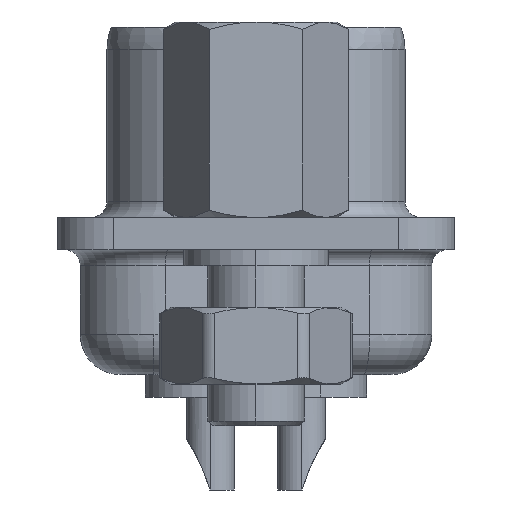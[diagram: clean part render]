
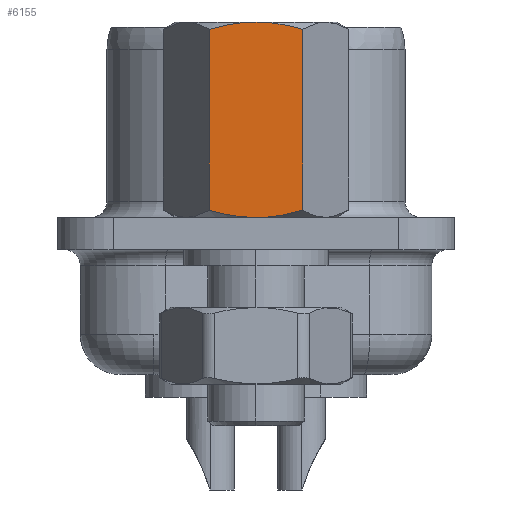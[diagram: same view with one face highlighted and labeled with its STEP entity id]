
A CAD part, left-side view. The second image highlights one B-rep face of the part: STEP entity #6155.
In plain terms, the highlighted planar face has unit normal (-1, 0, 0).
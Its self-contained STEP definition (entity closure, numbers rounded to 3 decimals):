
#144 = CARTESIAN_POINT ( 'NONE',  ( -14.995, 1.457, 6.373 ) ) ;
#187 = EDGE_CURVE ( 'NONE', #10081, #5953, #10543, .T. ) ;
#372 = CARTESIAN_POINT ( 'NONE',  ( -14.995, -1.457, 6.373 ) ) ;
#377 = CARTESIAN_POINT ( 'NONE',  ( -14.995, -1.22, 0.658 ) ) ;
#756 = VERTEX_POINT ( 'NONE', #10656 ) ;
#858 = CARTESIAN_POINT ( 'NONE',  ( -14.995, -1.457, 0.727 ) ) ;
#887 = CARTESIAN_POINT ( 'NONE',  ( -14.995, 1.457, 0.727 ) ) ;
#1219 = CARTESIAN_POINT ( 'NONE',  ( -14.995, 0.496, 6.578 ) ) ;
#1247 = CARTESIAN_POINT ( 'NONE',  ( -14.995, -0.977, 0.6 ) ) ;
#1264 = CARTESIAN_POINT ( 'NONE',  ( -14.995, 0.983, 6.498 ) ) ;
#1306 = CARTESIAN_POINT ( 'NONE',  ( -14.995, 1.221, 6.441 ) ) ;
#1315 = PLANE ( 'NONE',  #11116 ) ;
#1443 = DIRECTION ( 'NONE',  ( 1., 0., 0. ) ) ;
#2143 = VERTEX_POINT ( 'NONE', #7426 ) ;
#2246 = CARTESIAN_POINT ( 'NONE',  ( -14.995, 0., 6.6 ) ) ;
#2318 = VECTOR ( 'NONE', #5095, 1000. ) ;
#2637 = DIRECTION ( 'NONE',  ( 0., 0., -1. ) ) ;
#2748 = ORIENTED_EDGE ( 'NONE', *, *, #8160, .F. ) ;
#2966 = EDGE_LOOP ( 'NONE', ( #11625, #3658, #2748, #7686, #8209, #11139 ) ) ;
#3348 = CARTESIAN_POINT ( 'NONE',  ( -14.995, 1.457, 0.727 ) ) ;
#3594 = CARTESIAN_POINT ( 'NONE',  ( -14.995, 1.457, 6.6 ) ) ;
#3658 = ORIENTED_EDGE ( 'NONE', *, *, #5660, .F. ) ;
#4179 = FACE_OUTER_BOUND ( 'NONE', #2966, .T. ) ;
#4245 = CARTESIAN_POINT ( 'NONE',  ( -14.995, -1.457, 6.6 ) ) ;
#4568 = VECTOR ( 'NONE', #2637, 1000. ) ;
#4817 = B_SPLINE_CURVE_WITH_KNOTS ( 'NONE', 3,
 ( #12375, #12510, #6438, #11476, #5415, #372 ),
 .UNSPECIFIED., .F., .F.,
 ( 4, 2, 4 ),
 ( 0.002, 0.003, 0.004 ),
 .UNSPECIFIED. ) ;
#4827 = VERTEX_POINT ( 'NONE', #858 ) ;
#4833 = EDGE_CURVE ( 'NONE', #4827, #10529, #11874, .T. ) ;
#5095 = DIRECTION ( 'NONE',  ( 0., 0., -1. ) ) ;
#5415 = CARTESIAN_POINT ( 'NONE',  ( -14.995, -1.22, 6.442 ) ) ;
#5660 = EDGE_CURVE ( 'NONE', #756, #4827, #7370, .T. ) ;
#5953 = VERTEX_POINT ( 'NONE', #887 ) ;
#6155 = ADVANCED_FACE ( 'NONE', ( #4179 ), #1315, .F. ) ;
#6390 = CARTESIAN_POINT ( 'NONE',  ( -14.995, 0.983, 0.602 ) ) ;
#6438 = CARTESIAN_POINT ( 'NONE',  ( -14.995, -0.491, 6.579 ) ) ;
#6477 = DIRECTION ( 'NONE',  ( 0., 0., -1. ) ) ;
#7335 = CARTESIAN_POINT ( 'NONE',  ( -14.995, -0.491, 0.521 ) ) ;
#7370 = LINE ( 'NONE', #4245, #2318 ) ;
#7426 = CARTESIAN_POINT ( 'NONE',  ( -14.995, 0., 6.6 ) ) ;
#7686 = ORIENTED_EDGE ( 'NONE', *, *, #8664, .F. ) ;
#8160 = EDGE_CURVE ( 'NONE', #2143, #756, #4817, .T. ) ;
#8209 = ORIENTED_EDGE ( 'NONE', *, *, #187, .T. ) ;
#8664 = EDGE_CURVE ( 'NONE', #10081, #2143, #9033, .T. ) ;
#8907 = CARTESIAN_POINT ( 'NONE',  ( -14.995, 0., 0.5 ) ) ;
#9033 = B_SPLINE_CURVE_WITH_KNOTS ( 'NONE', 3,
 ( #10359, #1306, #1264, #1219, #9313, #2246 ),
 .UNSPECIFIED., .F., .F.,
 ( 4, 2, 4 ),
 ( 0.001, 0.002, 0.002 ),
 .UNSPECIFIED. ) ;
#9196 = CARTESIAN_POINT ( 'NONE',  ( -14.995, 0., 0.5 ) ) ;
#9291 = CARTESIAN_POINT ( 'NONE',  ( -14.995, 0., 0.5 ) ) ;
#9313 = CARTESIAN_POINT ( 'NONE',  ( -14.995, 0.246, 6.6 ) ) ;
#9359 = CARTESIAN_POINT ( 'NONE',  ( -14.995, 1.457, 6.6 ) ) ;
#10081 = VERTEX_POINT ( 'NONE', #144 ) ;
#10151 = CARTESIAN_POINT ( 'NONE',  ( -14.995, 0.496, 0.522 ) ) ;
#10359 = CARTESIAN_POINT ( 'NONE',  ( -14.995, 1.457, 6.373 ) ) ;
#10529 = VERTEX_POINT ( 'NONE', #8907 ) ;
#10543 = LINE ( 'NONE', #3594, #4568 ) ;
#10656 = CARTESIAN_POINT ( 'NONE',  ( -14.995, -1.457, 6.373 ) ) ;
#11054 = EDGE_CURVE ( 'NONE', #10529, #5953, #12216, .T. ) ;
#11116 = AXIS2_PLACEMENT_3D ( 'NONE', #9359, #1443, #6477 ) ;
#11139 = ORIENTED_EDGE ( 'NONE', *, *, #11054, .F. ) ;
#11319 = CARTESIAN_POINT ( 'NONE',  ( -14.995, -1.457, 0.727 ) ) ;
#11395 = CARTESIAN_POINT ( 'NONE',  ( -14.995, -0.246, 0.5 ) ) ;
#11476 = CARTESIAN_POINT ( 'NONE',  ( -14.995, -0.977, 6.5 ) ) ;
#11515 = CARTESIAN_POINT ( 'NONE',  ( -14.995, 0.246, 0.5 ) ) ;
#11625 = ORIENTED_EDGE ( 'NONE', *, *, #4833, .F. ) ;
#11874 = B_SPLINE_CURVE_WITH_KNOTS ( 'NONE', 3,
 ( #11319, #377, #1247, #7335, #11395, #9291 ),
 .UNSPECIFIED., .F., .F.,
 ( 4, 2, 4 ),
 ( 0.003, 0.003, 0.004 ),
 .UNSPECIFIED. ) ;
#12216 = B_SPLINE_CURVE_WITH_KNOTS ( 'NONE', 3,
 ( #9196, #11515, #10151, #6390, #12379, #3348 ),
 .UNSPECIFIED., .F., .F.,
 ( 4, 2, 4 ),
 ( 0.004, 0.005, 0.006 ),
 .UNSPECIFIED. ) ;
#12375 = CARTESIAN_POINT ( 'NONE',  ( -14.995, 0., 6.6 ) ) ;
#12379 = CARTESIAN_POINT ( 'NONE',  ( -14.995, 1.221, 0.659 ) ) ;
#12510 = CARTESIAN_POINT ( 'NONE',  ( -14.995, -0.246, 6.6 ) ) ;
